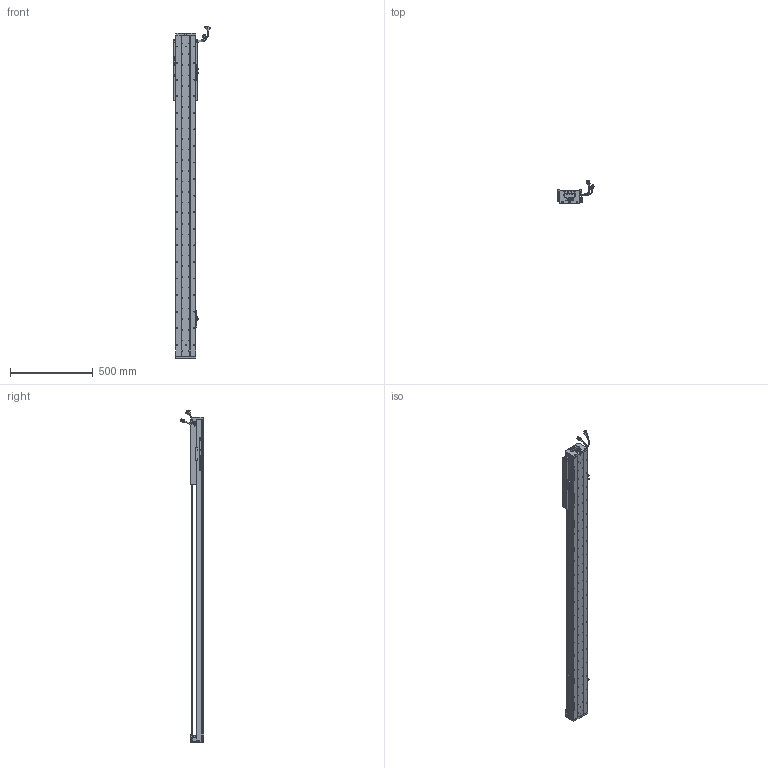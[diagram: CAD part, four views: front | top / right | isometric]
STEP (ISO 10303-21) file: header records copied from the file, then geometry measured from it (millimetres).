
FILE_DESCRIPTION (( 'STEP AP203' ), '1' );
FILE_NAME ('Z5-RY120D-1-L500-B-K.SLDASM_1500.step', '2021-05-17T06:23:13', ( '盈信电脑' ), ( '东莞市道滘镇水果街19号' ), 'SwSTEP 2.0', 'SolidWorks 2016', '' );
FILE_SCHEMA (( 'CONFIG_CONTROL_DESIGN' ));
Length unit declared in the file: millimetre
Products named in the file (37): 覜茼ん672; Z5-RY120-500-倰第菁釱_1500; SHIELDPLATE; SCREW-M1.6; PBU_SHEET; SEAL-Part-1; HARNESS; COVER-Part-1; 120-Z-臏賑輸盄裔(21遴); SCREW-M1.6-1; RY100FB-遵嫖萇覜茼え; SCREW-M1.7-1; SCALE-Part-2; Z-RY120D詩湍狟揤裔; HOLDER0; SCREW-M1.6-3; 榋妏寠巭燃_暯_M2_2; HARNESS-Part-1; SCALE-Part-1; LABEL-Part-1; SEAL; Z5-RY120铝滑块（21款）; 080黍杅芛假蚾釱21遴; Z-120詩湍傷裔啣; Z-RY120D詩湍奻揤裔; SCREW-M1.6-2; Z5-RY120-L500詩湍100mm遵_1500; PSLH080_PSLF2; SCALE; LABEL; HARNESS-Part-2; SCREW-M1.7; 140雄赽晤鎢ん堤盄; 672嫖萇羲壽假蚾釱; Z5-RY120D-1-L500-B-K.SLDASM_1500; COVER; 140蚥薯蝶輸
Assembly tree (43 placements, depth 4):
  Z5-RY120D-1-L500-B-K.SLDASM_1500
    Z5-RY120-500-倰第菁釱_1500
    覜茼ん672  x3
    672嫖萇羲壽假蚾釱  x2
    Z5-RY120铝滑块（21款）
    PSLH080_PSLF2
      SCALE
        SCALE-Part-1
        SCALE-Part-2
      HARNESS
        HARNESS-Part-1
        HARNESS-Part-2
      LABEL
        LABEL-Part-1
      COVER
        COVER-Part-1
      SEAL
        SEAL-Part-1
      榋妏寠巭燃_暯_M2_2
      SHIELDPLATE
      SCREW-M1.7
      SCREW-M1.7-1
      PBU_SHEET
      SCREW-M1.6
      SCREW-M1.6-1
      SCREW-M1.6-2
      SCREW-M1.6-3
      HOLDER0
    080黍杅芛假蚾釱21遴
    120-Z-臏賑輸盄裔(21遴)
    140雄赽晤鎢ん堤盄
    140蚥薯蝶輸  x2
    RY100FB-遵嫖萇覜茼え
    Z-120詩湍傷裔啣  x2
    Z-RY120D詩湍奻揤裔  x2
    Z-RY120D詩湍狟揤裔  x2
    Z5-RY120-L500詩湍100mm遵_1500
Bounding box: 222.88 x 140.94 x 2003.99 mm (x, y, z)
Volume: 5270610.7 mm3; surface area: 1757609.3 mm2
Topology: 38 solids, 38 shells, 3365 faces, 9371 edges, 5918 vertices
Faces by surface type: cylinder 1703, plane 1202, cone 338, torus 69, bspline 53
Entity records: 108450 total; most frequent: CARTESIAN_POINT 31483, ORIENTED_EDGE 15590, DIRECTION 14763, EDGE_CURVE 7795, AXIS2_PLACEMENT_3D 5464, VERTEX_POINT 5038, LINE 3835, VECTOR 3835
